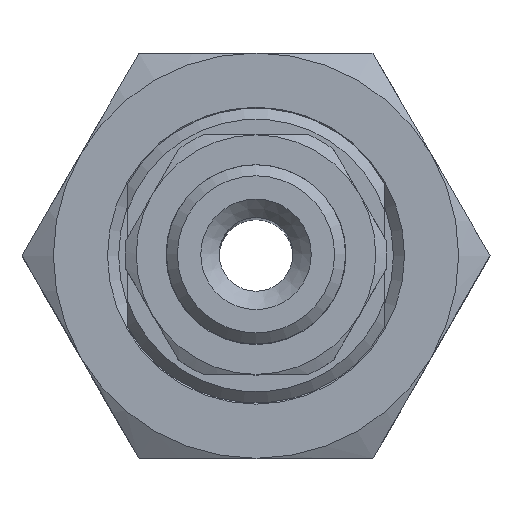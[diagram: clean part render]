
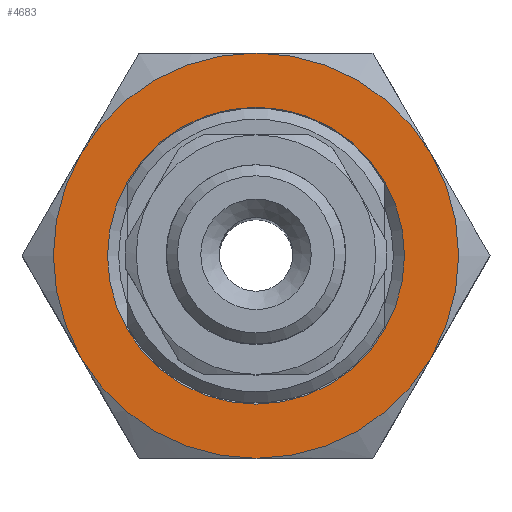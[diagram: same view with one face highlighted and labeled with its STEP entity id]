
A CAD part, top view. The second image highlights one B-rep face of the part: STEP entity #4683.
In plain terms, the highlighted planar face has unit normal (0, 0, 1).
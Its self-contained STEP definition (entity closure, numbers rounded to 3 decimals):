
#4213=CARTESIAN_POINT('',(9.526,-5.5,5.0));
#4214=VERTEX_POINT('',#4213);
#4267=CARTESIAN_POINT('',(9.526,5.5,5.0));
#4268=VERTEX_POINT('',#4267);
#4314=CARTESIAN_POINT('',(0.0,11.,5.0));
#4315=VERTEX_POINT('',#4314);
#4352=CARTESIAN_POINT('',(-9.526,5.5,5.0));
#4353=VERTEX_POINT('',#4352);
#4367=CARTESIAN_POINT('',(0.0,0.0,5.0));
#4368=DIRECTION('',(0.0,0.0,1.0));
#4369=DIRECTION('',(0.0,1.0,0.0));
#4370=AXIS2_PLACEMENT_3D('',#4367,#4368,#4369);
#4371=CIRCLE('',#4370,11.);
#4372=EDGE_CURVE('',#4315,#4353,#4371,.T.);
#4384=CARTESIAN_POINT('',(0.0,0.0,5.0));
#4385=DIRECTION('',(0.0,0.0,1.0));
#4386=DIRECTION('',(0.0,1.0,0.0));
#4387=AXIS2_PLACEMENT_3D('',#4384,#4385,#4386);
#4388=CIRCLE('',#4387,11.);
#4389=EDGE_CURVE('',#4268,#4315,#4388,.T.);
#4401=CARTESIAN_POINT('',(0.0,0.0,5.0));
#4402=DIRECTION('',(0.0,0.0,1.0));
#4403=DIRECTION('',(0.0,1.0,0.0));
#4404=AXIS2_PLACEMENT_3D('',#4401,#4402,#4403);
#4405=CIRCLE('',#4404,11.);
#4406=EDGE_CURVE('',#4214,#4268,#4405,.T.);
#4416=CARTESIAN_POINT('',(0.,-11.,5.0));
#4417=VERTEX_POINT('',#4416);
#4432=CARTESIAN_POINT('',(0.0,0.0,5.0));
#4433=DIRECTION('',(0.0,0.0,1.0));
#4434=DIRECTION('',(0.0,1.0,0.0));
#4435=AXIS2_PLACEMENT_3D('',#4432,#4433,#4434);
#4436=CIRCLE('',#4435,11.);
#4437=EDGE_CURVE('',#4417,#4214,#4436,.T.);
#4462=CARTESIAN_POINT('',(-9.526,-5.5,5.0));
#4463=VERTEX_POINT('',#4462);
#4464=CARTESIAN_POINT('',(0.0,0.0,5.0));
#4465=DIRECTION('',(0.0,0.0,1.0));
#4466=DIRECTION('',(0.0,1.0,0.0));
#4467=AXIS2_PLACEMENT_3D('',#4464,#4465,#4466);
#4468=CIRCLE('',#4467,11.);
#4469=EDGE_CURVE('',#4463,#4417,#4468,.T.);
#4507=CARTESIAN_POINT('',(0.0,0.0,5.0));
#4508=DIRECTION('',(0.0,0.0,1.0));
#4509=DIRECTION('',(0.0,1.0,0.0));
#4510=AXIS2_PLACEMENT_3D('',#4507,#4508,#4509);
#4511=CIRCLE('',#4510,11.);
#4512=EDGE_CURVE('',#4353,#4463,#4511,.T.);
#4655=CARTESIAN_POINT('',(8.059,0.,5.0));
#4656=VERTEX_POINT('',#4655);
#4657=CARTESIAN_POINT('',(0.,0.,5.0));
#4658=DIRECTION('',(0.0,0.0,1.0));
#4659=DIRECTION('',(-1.0,0.0,0.0));
#4660=AXIS2_PLACEMENT_3D('',#4657,#4658,#4659);
#4661=CIRCLE('',#4660,8.058);
#4662=EDGE_CURVE('',#4656,#4656,#4661,.T.);
#4667=CARTESIAN_POINT('',(0.,0.,5.0));
#4668=DIRECTION('',(0.0,0.0,1.0));
#4669=DIRECTION('',(1.0,0.0,0.0));
#4670=AXIS2_PLACEMENT_3D('',#4667,#4668,#4669);
#4671=PLANE('',#4670);
#4672=ORIENTED_EDGE('',*,*,#4512,.T.);
#4673=ORIENTED_EDGE('',*,*,#4469,.T.);
#4674=ORIENTED_EDGE('',*,*,#4437,.T.);
#4675=ORIENTED_EDGE('',*,*,#4406,.T.);
#4676=ORIENTED_EDGE('',*,*,#4389,.T.);
#4677=ORIENTED_EDGE('',*,*,#4372,.T.);
#4678=EDGE_LOOP('',(#4672,#4673,#4674,#4675,#4676,#4677));
#4679=FACE_OUTER_BOUND('',#4678,.T.);
#4680=ORIENTED_EDGE('',*,*,#4662,.F.);
#4681=EDGE_LOOP('',(#4680));
#4682=FACE_BOUND('',#4681,.T.);
#4683=ADVANCED_FACE('',(#4679,#4682),#4671,.T.);
